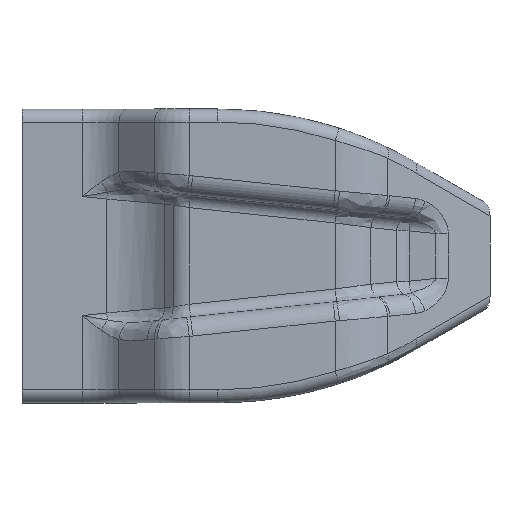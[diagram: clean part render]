
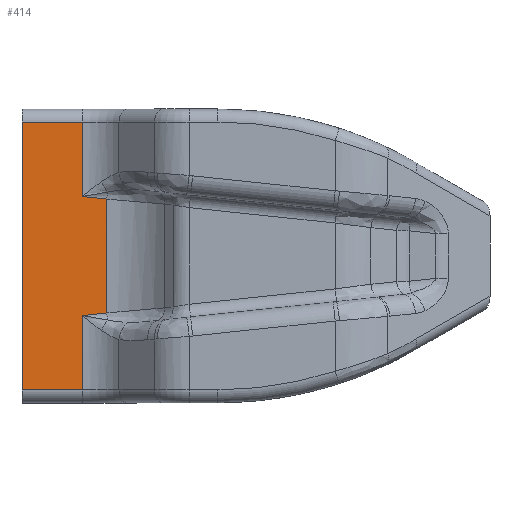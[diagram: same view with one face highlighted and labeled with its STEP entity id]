
A CAD part, top view. The second image highlights one B-rep face of the part: STEP entity #414.
In plain terms, the highlighted planar face has unit normal (0, 0, 1).
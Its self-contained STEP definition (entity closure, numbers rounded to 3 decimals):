
#414=ADVANCED_FACE('',(#680),#621,.T.);
#621=PLANE('',#3560);
#680=FACE_OUTER_BOUND('',#900,.T.);
#900=EDGE_LOOP('',(#1417,#1418,#1419,#1420,#1421,#1422,#1423,#1424));
#1417=ORIENTED_EDGE('',*,*,#2662,.F.);
#1418=ORIENTED_EDGE('',*,*,#2743,.F.);
#1419=ORIENTED_EDGE('',*,*,#2744,.F.);
#1420=ORIENTED_EDGE('',*,*,#2745,.F.);
#1421=ORIENTED_EDGE('',*,*,#2659,.F.);
#1422=ORIENTED_EDGE('',*,*,#2746,.T.);
#1423=ORIENTED_EDGE('',*,*,#2730,.T.);
#1424=ORIENTED_EDGE('',*,*,#2747,.T.);
#2344=VERTEX_POINT('',#4985);
#2346=VERTEX_POINT('',#4992);
#2348=VERTEX_POINT('',#5004);
#2349=VERTEX_POINT('',#5006);
#2407=VERTEX_POINT('',#5207);
#2408=VERTEX_POINT('',#5209);
#2417=VERTEX_POINT('',#5241);
#2418=VERTEX_POINT('',#5243);
#2659=EDGE_CURVE('',#2346,#2344,#3152,.T.);
#2662=EDGE_CURVE('',#2348,#2349,#3153,.T.);
#2730=EDGE_CURVE('',#2408,#2407,#3188,.T.);
#2743=EDGE_CURVE('',#2417,#2348,#3195,.T.);
#2744=EDGE_CURVE('',#2418,#2417,#3196,.T.);
#2745=EDGE_CURVE('',#2344,#2418,#3197,.T.);
#2746=EDGE_CURVE('',#2346,#2408,#3198,.T.);
#2747=EDGE_CURVE('',#2407,#2349,#3199,.T.);
#3152=LINE('',#4993,#3340);
#3153=LINE('',#5005,#3341);
#3188=LINE('',#5208,#3376);
#3195=LINE('',#5240,#3383);
#3196=LINE('',#5242,#3384);
#3197=LINE('',#5244,#3385);
#3198=LINE('',#5245,#3386);
#3199=LINE('',#5246,#3387);
#3340=VECTOR('',#3943,1.);
#3341=VECTOR('',#3946,1.);
#3376=VECTOR('',#4031,1.);
#3383=VECTOR('',#4056,1.);
#3384=VECTOR('',#4057,1.);
#3385=VECTOR('',#4058,1.);
#3386=VECTOR('',#4059,1.);
#3387=VECTOR('',#4060,1.);
#3560=AXIS2_PLACEMENT_3D('',#5247,#4061,#4062);
#3943=DIRECTION('',(0.,-1.,0.));
#3946=DIRECTION('',(0.,-1.,0.));
#4031=DIRECTION('',(0.,-1.,0.));
#4056=DIRECTION('',(-0.995,-0.105,0.));
#4057=DIRECTION('',(0.,-1.,0.));
#4058=DIRECTION('',(0.995,-0.105,0.));
#4059=DIRECTION('',(-1.,0.,0.));
#4060=DIRECTION('',(1.,0.,0.));
#4061=DIRECTION('',(0.,0.,1.));
#4062=DIRECTION('',(1.,0.,0.));
#4985=CARTESIAN_POINT('',(18.373,18.236,0.));
#4992=CARTESIAN_POINT('',(18.373,41.,0.));
#4993=CARTESIAN_POINT('',(18.373,100.,0.));
#5004=CARTESIAN_POINT('',(18.373,-18.236,0.));
#5005=CARTESIAN_POINT('',(18.373,100.,0.));
#5006=CARTESIAN_POINT('',(18.373,-41.,0.));
#5207=CARTESIAN_POINT('',(0.,-41.,0.));
#5208=CARTESIAN_POINT('',(0.,100.,0.));
#5209=CARTESIAN_POINT('',(0.,41.,0.));
#5240=CARTESIAN_POINT('',(2.096,-19.947,0.));
#5241=CARTESIAN_POINT('',(25.958,-17.439,0.));
#5242=CARTESIAN_POINT('',(25.958,56.,0.));
#5243=CARTESIAN_POINT('',(25.958,17.439,0.));
#5244=CARTESIAN_POINT('',(2.096,19.947,0.));
#5245=CARTESIAN_POINT('',(0.,41.,0.));
#5246=CARTESIAN_POINT('',(0.,-41.,0.));
#5247=CARTESIAN_POINT('',(18.373,100.,0.));
